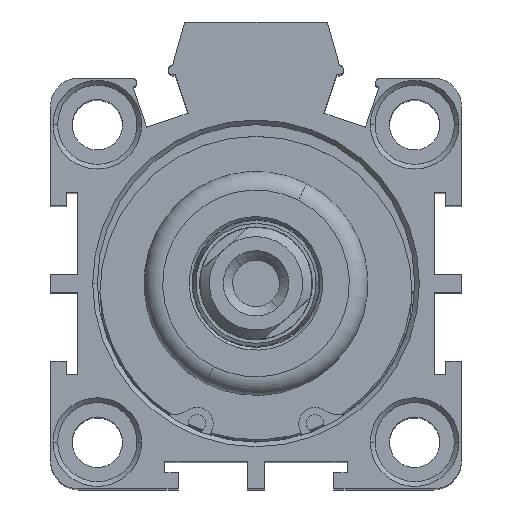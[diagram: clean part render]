
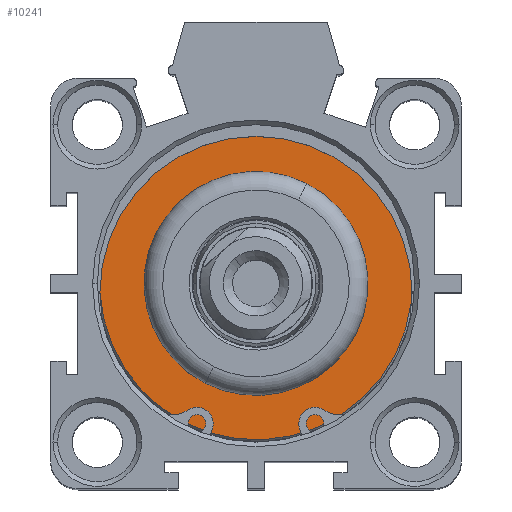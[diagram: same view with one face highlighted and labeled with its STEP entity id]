
A CAD part, top view. The second image highlights one B-rep face of the part: STEP entity #10241.
In plain terms, the highlighted planar face has unit normal (0, 0, 1) as drawn and (1, 0, 0) by its records, which use the part's own axes.
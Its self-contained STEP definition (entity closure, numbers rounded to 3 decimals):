
#186 = DIRECTION ( 'NONE',  ( -1., 0., 0. ) ) ;
#202 = ORIENTED_EDGE ( 'NONE', *, *, #17165, .F. ) ;
#877 = DIRECTION ( 'NONE',  ( -1., 0., 0. ) ) ;
#1168 = CIRCLE ( 'NONE', #2089, 12. ) ;
#1304 = CARTESIAN_POINT ( 'NONE',  ( 4.5, 0., -12. ) ) ;
#1420 = CARTESIAN_POINT ( 'NONE',  ( 4.5, 16.75, 0. ) ) ;
#2089 = AXIS2_PLACEMENT_3D ( 'NONE', #14910, #877, #13131 ) ;
#2846 = VERTEX_POINT ( 'NONE', #5246 ) ;
#2966 = DIRECTION ( 'NONE',  ( -1., 0., 0. ) ) ;
#3141 = EDGE_LOOP ( 'NONE', ( #14374, #202 ) ) ;
#3905 = ORIENTED_EDGE ( 'NONE', *, *, #16271, .T. ) ;
#4228 = CIRCLE ( 'NONE', #7073, 16.75 ) ;
#4346 = CIRCLE ( 'NONE', #7634, 12. ) ;
#4551 = DIRECTION ( 'NONE',  ( 0., 0., 1. ) ) ;
#5071 = VERTEX_POINT ( 'NONE', #1304 ) ;
#5093 = CARTESIAN_POINT ( 'NONE',  ( 4.5, 0., 16.75 ) ) ;
#5246 = CARTESIAN_POINT ( 'NONE',  ( 4.5, 0., 12. ) ) ;
#5873 = DIRECTION ( 'NONE',  ( -1., 0., 0. ) ) ;
#6837 = EDGE_CURVE ( 'NONE', #5071, #2846, #4346, .T. ) ;
#7073 = AXIS2_PLACEMENT_3D ( 'NONE', #10780, #15791, #7608 ) ;
#7116 = FACE_BOUND ( 'NONE', #16450, .T. ) ;
#7397 = ORIENTED_EDGE ( 'NONE', *, *, #6837, .T. ) ;
#7594 = FACE_OUTER_BOUND ( 'NONE', #3141, .T. ) ;
#7608 = DIRECTION ( 'NONE',  ( 0., 0., 1. ) ) ;
#7634 = AXIS2_PLACEMENT_3D ( 'NONE', #13625, #5873, #9792 ) ;
#9490 = CARTESIAN_POINT ( 'NONE',  ( 4.5, 0., 0. ) ) ;
#9792 = DIRECTION ( 'NONE',  ( 0., 0., 1. ) ) ;
#10241 = ADVANCED_FACE ( 'NONE', ( #7594, #7116 ), #10967, .F. ) ;
#10780 = CARTESIAN_POINT ( 'NONE',  ( 4.5, 0., 0. ) ) ;
#10967 = PLANE ( 'NONE',  #18381 ) ;
#11085 = AXIS2_PLACEMENT_3D ( 'NONE', #9490, #186, #13830 ) ;
#11779 = EDGE_CURVE ( 'NONE', #14733, #16991, #18171, .T. ) ;
#13131 = DIRECTION ( 'NONE',  ( 0., 0., 1. ) ) ;
#13625 = CARTESIAN_POINT ( 'NONE',  ( 4.5, 0., 0. ) ) ;
#13830 = DIRECTION ( 'NONE',  ( 0., 0., 1. ) ) ;
#14374 = ORIENTED_EDGE ( 'NONE', *, *, #11779, .F. ) ;
#14733 = VERTEX_POINT ( 'NONE', #5093 ) ;
#14910 = CARTESIAN_POINT ( 'NONE',  ( 4.5, 0., 0. ) ) ;
#15791 = DIRECTION ( 'NONE',  ( -1., 0., 0. ) ) ;
#16271 = EDGE_CURVE ( 'NONE', #2846, #5071, #1168, .T. ) ;
#16450 = EDGE_LOOP ( 'NONE', ( #3905, #7397 ) ) ;
#16991 = VERTEX_POINT ( 'NONE', #17639 ) ;
#17165 = EDGE_CURVE ( 'NONE', #16991, #14733, #4228, .T. ) ;
#17639 = CARTESIAN_POINT ( 'NONE',  ( 4.5, 0., -16.75 ) ) ;
#18171 = CIRCLE ( 'NONE', #11085, 16.75 ) ;
#18381 = AXIS2_PLACEMENT_3D ( 'NONE', #1420, #2966, #4551 ) ;
